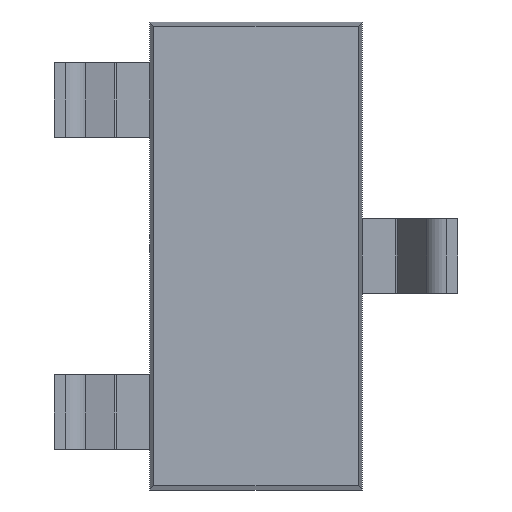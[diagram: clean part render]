
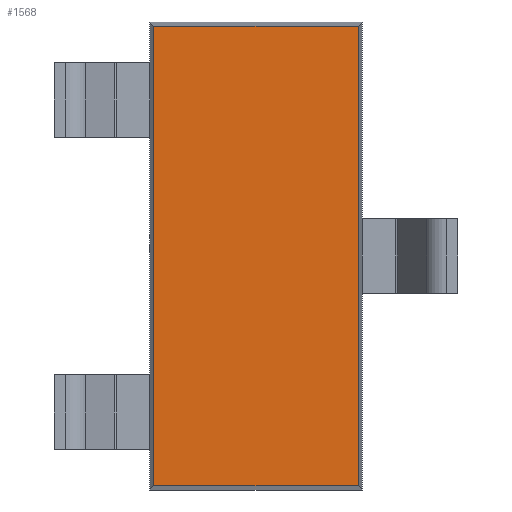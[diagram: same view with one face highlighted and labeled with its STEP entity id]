
A CAD part, front view. The second image highlights one B-rep face of the part: STEP entity #1568.
In plain terms, the highlighted planar face has unit normal (0, -1, 0).
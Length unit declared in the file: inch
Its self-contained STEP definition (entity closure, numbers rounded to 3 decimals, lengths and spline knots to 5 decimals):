
#75 = CARTESIAN_POINT ( 'NONE',  ( -0.02453, 0.0039, -0.05625 ) ) ;
#191 = ORIENTED_EDGE ( 'NONE', *, *, #1207, .T. ) ;
#206 = LINE ( 'NONE', #75, #991 ) ;
#337 = DIRECTION ( 'NONE',  ( 0., 0., -1. ) ) ;
#391 = VERTEX_POINT ( 'NONE', #853 ) ;
#481 = CARTESIAN_POINT ( 'NONE',  ( 0.02453, 0.0039, 0.05528 ) ) ;
#489 = DIRECTION ( 'NONE',  ( 0., 1., 0. ) ) ;
#510 = VECTOR ( 'NONE', #1301, 39.37008 ) ;
#655 = ORIENTED_EDGE ( 'NONE', *, *, #681, .T. ) ;
#659 = LINE ( 'NONE', #792, #1221 ) ;
#681 = EDGE_CURVE ( 'NONE', #1570, #1607, #1273, .T. ) ;
#687 = FACE_OUTER_BOUND ( 'NONE', #1263, .T. ) ;
#792 = CARTESIAN_POINT ( 'NONE',  ( 0.0255, 0.0039, -0.05528 ) ) ;
#846 = PLANE ( 'NONE',  #1019 ) ;
#850 = VERTEX_POINT ( 'NONE', #1556 ) ;
#853 = CARTESIAN_POINT ( 'NONE',  ( -0.02453, 0.0039, -0.05528 ) ) ;
#892 = CARTESIAN_POINT ( 'NONE',  ( -0.0255, 0.0039, 0.05528 ) ) ;
#991 = VECTOR ( 'NONE', #337, 39.37008 ) ;
#1001 = VECTOR ( 'NONE', #1249, 39.37008 ) ;
#1019 = AXIS2_PLACEMENT_3D ( 'NONE', #1086, #489, #1341 ) ;
#1086 = CARTESIAN_POINT ( 'NONE',  ( 0., 0.0039, 0. ) ) ;
#1166 = DIRECTION ( 'NONE',  ( 1., 0., 0. ) ) ;
#1207 = EDGE_CURVE ( 'NONE', #391, #850, #659, .T. ) ;
#1221 = VECTOR ( 'NONE', #1166, 39.37008 ) ;
#1233 = EDGE_CURVE ( 'NONE', #850, #1570, #1553, .T. ) ;
#1249 = DIRECTION ( 'NONE',  ( -1., 0., 0. ) ) ;
#1263 = EDGE_LOOP ( 'NONE', ( #1440, #191, #1519, #655 ) ) ;
#1273 = LINE ( 'NONE', #892, #1001 ) ;
#1301 = DIRECTION ( 'NONE',  ( 0., 0., 1. ) ) ;
#1341 = DIRECTION ( 'NONE',  ( 0., 0., 1. ) ) ;
#1360 = EDGE_CURVE ( 'NONE', #1607, #391, #206, .T. ) ;
#1440 = ORIENTED_EDGE ( 'NONE', *, *, #1360, .T. ) ;
#1471 = CARTESIAN_POINT ( 'NONE',  ( -0.02453, 0.0039, 0.05528 ) ) ;
#1519 = ORIENTED_EDGE ( 'NONE', *, *, #1233, .T. ) ;
#1543 = CARTESIAN_POINT ( 'NONE',  ( 0.02453, 0.0039, 0.05625 ) ) ;
#1553 = LINE ( 'NONE', #1543, #510 ) ;
#1556 = CARTESIAN_POINT ( 'NONE',  ( 0.02453, 0.0039, -0.05528 ) ) ;
#1568 = ADVANCED_FACE ( 'NONE', ( #687 ), #846, .F. ) ;
#1570 = VERTEX_POINT ( 'NONE', #481 ) ;
#1607 = VERTEX_POINT ( 'NONE', #1471 ) ;
